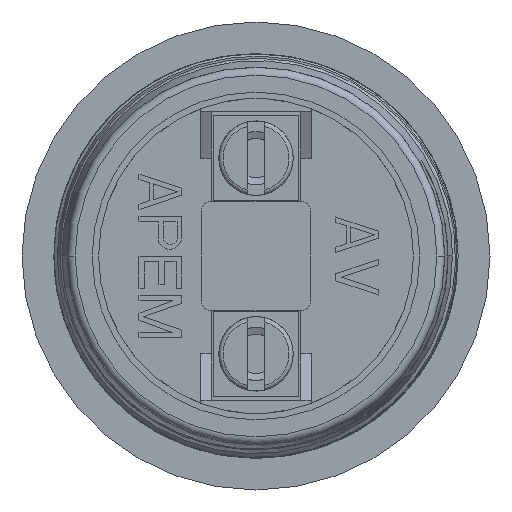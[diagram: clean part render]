
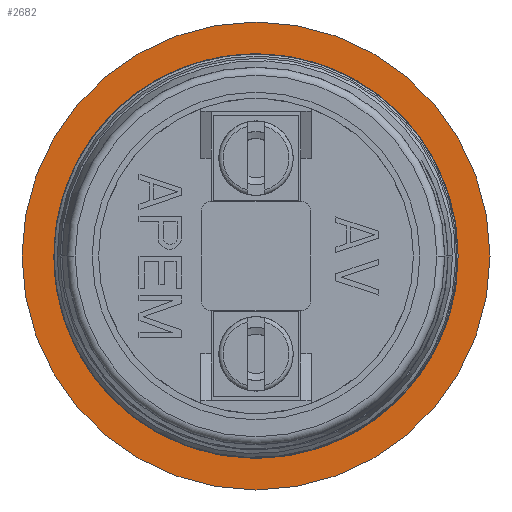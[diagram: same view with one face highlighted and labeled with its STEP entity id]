
A CAD part, front view. The second image highlights one B-rep face of the part: STEP entity #2682.
In plain terms, the highlighted planar face has unit normal (0, -1, 0).
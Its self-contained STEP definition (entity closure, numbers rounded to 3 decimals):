
#49=CARTESIAN_POINT('',(0.,0.,0.));
#50=DIRECTION('',(0.,1.,0.));
#51=DIRECTION('',(-1.,0.,0.));
#52=AXIS2_PLACEMENT_3D('',#49,#50,#51);
#54=CARTESIAN_POINT('',(0.,0.,0.));
#55=DIRECTION('',(0.,-1.,0.));
#56=DIRECTION('',(-1.,0.,0.));
#57=AXIS2_PLACEMENT_3D('',#54,#55,#56);
#111=CARTESIAN_POINT('',(0.,0.,0.));
#112=DIRECTION('',(0.,-1.,0.));
#113=DIRECTION('',(-1.,0.,0.));
#114=AXIS2_PLACEMENT_3D('',#111,#112,#113);
#715=CARTESIAN_POINT('',(0.,0.,0.));
#716=DIRECTION('',(0.,1.,0.));
#717=DIRECTION('',(-1.,0.,0.));
#718=AXIS2_PLACEMENT_3D('',#715,#716,#717);
#2460=CARTESIAN_POINT('',(-11.,0.,0.));
#2461=VERTEX_POINT('',#2460);
#2466=CARTESIAN_POINT('',(11.,0.,0.));
#2467=VERTEX_POINT('',#2466);
#2507=CARTESIAN_POINT('',(9.5,0.,0.));
#2509=VERTEX_POINT('',#2507);
#2515=CARTESIAN_POINT('',(-9.5,0.,0.));
#2516=VERTEX_POINT('',#2515);
#2667=CARTESIAN_POINT('',(0.,0.,0.));
#2668=DIRECTION('',(0.,-1.,0.));
#2669=DIRECTION('',(-1.,0.,0.));
#2670=AXIS2_PLACEMENT_3D('',#2667,#2668,#2669);
#2671=PLANE('',#2670);
#2672=ORIENTED_EDGE('',*,*,#2662,.T.);
#2673=ORIENTED_EDGE('',*,*,#2646,.F.);
#2674=EDGE_LOOP('',(#2672,#2673));
#2675=FACE_OUTER_BOUND('',#2674,.F.);
#2677=ORIENTED_EDGE('',*,*,#2676,.T.);
#2679=ORIENTED_EDGE('',*,*,#2678,.F.);
#2680=EDGE_LOOP('',(#2677,#2679));
#2681=FACE_BOUND('',#2680,.F.);
#2682=ADVANCED_FACE('',(#2675,#2681),#2671,.T.);
#53=CIRCLE('',#52,11.);
#58=CIRCLE('',#57,11.);
#115=CIRCLE('',#114,9.5);
#719=CIRCLE('',#718,9.5);
#2646=EDGE_CURVE('',#2461,#2467,#58,.T.);
#2662=EDGE_CURVE('',#2461,#2467,#53,.T.);
#2676=EDGE_CURVE('',#2516,#2509,#115,.T.);
#2678=EDGE_CURVE('',#2516,#2509,#719,.T.);
